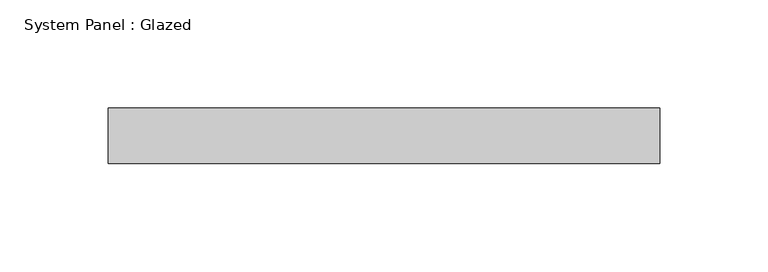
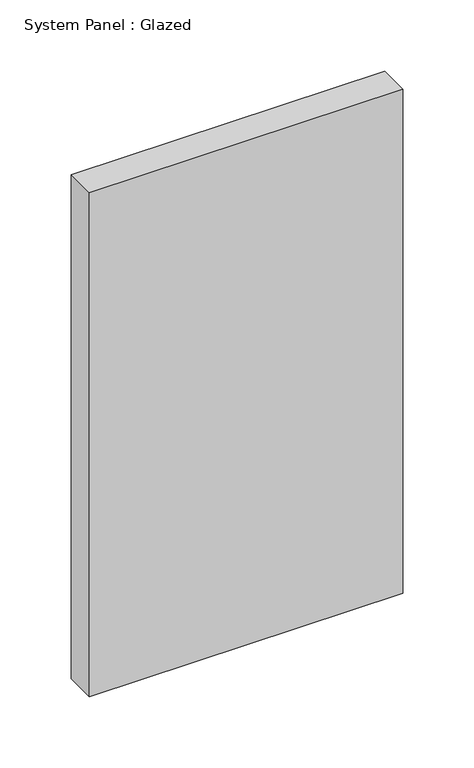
"""IFC4 building model written with IfcOpenShell, lengths in millimetres: plate geometry, System Panel : Glazed."""

from ifc_helpers import new_model, si_unit, origin, origin_with_axes, place, context, project, spatial, polyline, outline, extrude, source, transform, mapped, element, save


def system_panel_glazed_a50cffbe(model_context):
    return source(origin(), model_context, "Body", "SweptSolid", [
        extrude(outline(polyline([(126.9999998, -44.45), (-126.9999998, -44.45), (-126.9999998, -19.05), (126.9999998, -19.05), (126.9999998, -44.45)])), origin_with_axes(), (0.0, 0.0, 1.0), 431.8),
    ])


if __name__ == "__main__":
    model = new_model("IFC4")
    model_context = context("Model", 3, world=origin())
    ifc_project = project(units=[si_unit("LENGTHUNIT", "METRE", prefix="MILLI")], contexts=[model_context])
    site = spatial("IfcSite", under=ifc_project)
    building = spatial("IfcBuilding", under=site)
    placement = place(None, origin())
    system_panel_glazed_shape = system_panel_glazed_a50cffbe(model_context)
    element("IfcPlate", 1, ObjectType="System Panel : Glazed", at=placement, inside=building, context=model_context, shape_type="MappedRepresentation", body=[
        mapped(system_panel_glazed_shape, transform((0.0, 0.0, 0.0), x_axis=(1.0, 0.0, 0.0), y_axis=(0.0, 1.0, 0.0), z_axis=(0.0, 0.0, 1.0))),
    ])
    save(model, "model.ifc")
